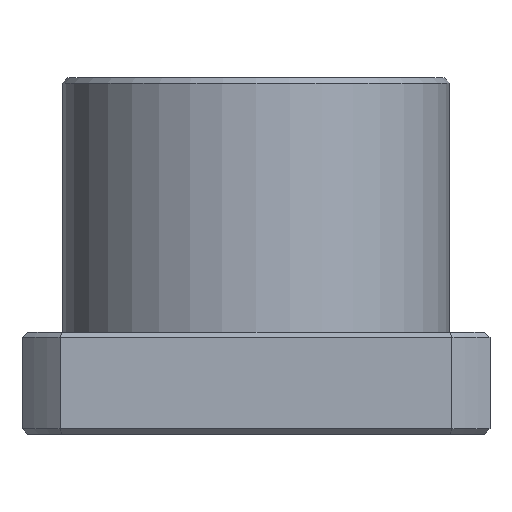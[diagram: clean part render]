
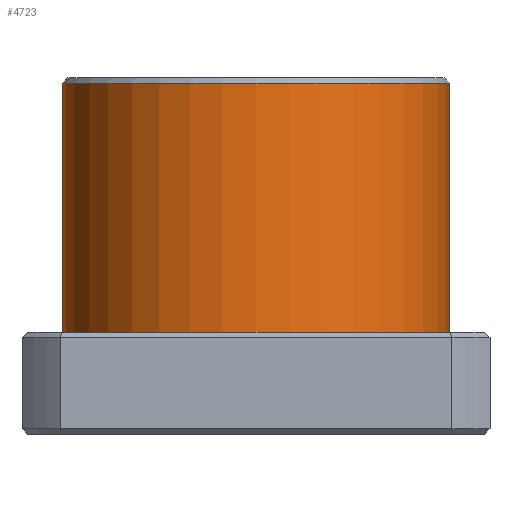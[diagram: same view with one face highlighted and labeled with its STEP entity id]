
A CAD part, front view. The second image highlights one B-rep face of the part: STEP entity #4723.
In plain terms, the highlighted cylindrical face has radius 19 mm (diameter 38 mm), a partial arc.
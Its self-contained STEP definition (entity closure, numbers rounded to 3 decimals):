
#297 = EDGE_CURVE ( 'NONE', #7863, #8042, #7104, .T. ) ;
#300 = EDGE_CURVE ( 'NONE', #7895, #7988, #7601, .T. ) ;
#484 = DIRECTION ( 'NONE',  ( 0., 0., -1. ) ) ;
#485 = CARTESIAN_POINT ( 'NONE',  ( -19., 0., 35. ) ) ;
#649 = CARTESIAN_POINT ( 'NONE',  ( 0., 0., 34.5 ) ) ;
#664 = CARTESIAN_POINT ( 'NONE',  ( 0., 0., 10. ) ) ;
#667 = DIRECTION ( 'NONE',  ( 0., 0., 1. ) ) ;
#683 = DIRECTION ( 'NONE',  ( 1., 0., 0. ) ) ;
#698 = DIRECTION ( 'NONE',  ( 0., 0., -1. ) ) ;
#736 = DIRECTION ( 'NONE',  ( 1., 0., 0. ) ) ;
#1158 = CARTESIAN_POINT ( 'NONE',  ( 19., 0., 35. ) ) ;
#1382 = EDGE_CURVE ( 'NONE', #7863, #7988, #7301, .T. ) ;
#1504 = ORIENTED_EDGE ( 'NONE', *, *, #2652, .T. ) ;
#1795 = ORIENTED_EDGE ( 'NONE', *, *, #297, .T. ) ;
#1829 = ORIENTED_EDGE ( 'NONE', *, *, #1382, .F. ) ;
#2203 = ORIENTED_EDGE ( 'NONE', *, *, #300, .T. ) ;
#2406 = EDGE_LOOP ( 'NONE', ( #1829, #1795, #1504, #2203 ) ) ;
#2652 = EDGE_CURVE ( 'NONE', #8042, #7895, #6760, .T. ) ;
#3173 = AXIS2_PLACEMENT_3D ( 'NONE', #649, #698, #736 ) ;
#3175 = AXIS2_PLACEMENT_3D ( 'NONE', #664, #667, #683 ) ;
#4420 = DIRECTION ( 'NONE',  ( 0., 0., -1. ) ) ;
#4723 = ADVANCED_FACE ( 'NONE', ( #7166 ), #7089, .T. ) ;
#5412 = AXIS2_PLACEMENT_3D ( 'NONE', #6137, #6134, #6133 ) ;
#6133 = DIRECTION ( 'NONE',  ( -1., 0., 0. ) ) ;
#6134 = DIRECTION ( 'NONE',  ( 0., 0., -1. ) ) ;
#6137 = CARTESIAN_POINT ( 'NONE',  ( 0., 0., 35. ) ) ;
#6305 = CARTESIAN_POINT ( 'NONE',  ( 19., 0., 34.5 ) ) ;
#6334 = CARTESIAN_POINT ( 'NONE',  ( -19., 0., 10. ) ) ;
#6419 = CARTESIAN_POINT ( 'NONE',  ( 19., 0., 10. ) ) ;
#6469 = CARTESIAN_POINT ( 'NONE',  ( -19., 0., 34.5 ) ) ;
#6753 = VECTOR ( 'NONE', #484, 1000. ) ;
#6760 = LINE ( 'NONE', #485, #6753 ) ;
#6996 = VECTOR ( 'NONE', #4420, 1000. ) ;
#7089 = CYLINDRICAL_SURFACE ( 'NONE', #5412, 19. ) ;
#7104 = CIRCLE ( 'NONE', #3173, 19. ) ;
#7166 = FACE_OUTER_BOUND ( 'NONE', #2406, .T. ) ;
#7301 = LINE ( 'NONE', #1158, #6996 ) ;
#7601 = CIRCLE ( 'NONE', #3175, 19. ) ;
#7863 = VERTEX_POINT ( 'NONE', #6305 ) ;
#7895 = VERTEX_POINT ( 'NONE', #6334 ) ;
#7988 = VERTEX_POINT ( 'NONE', #6419 ) ;
#8042 = VERTEX_POINT ( 'NONE', #6469 ) ;
